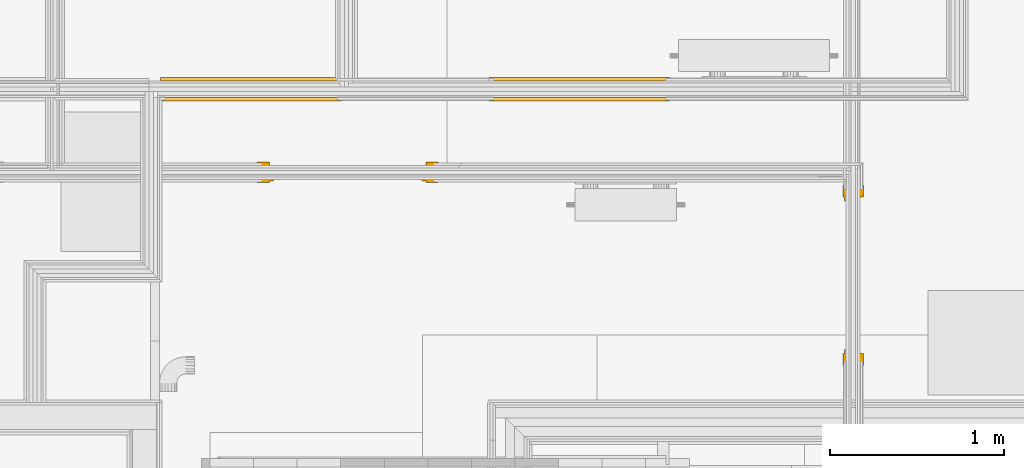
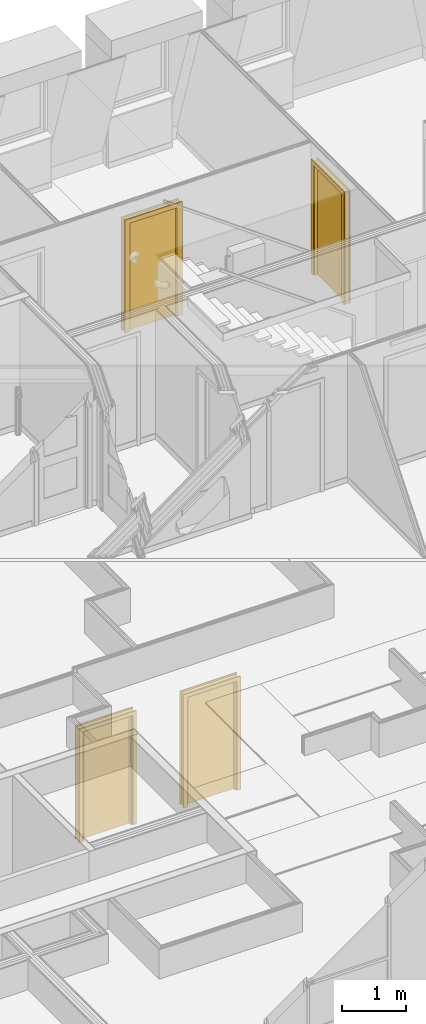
# One storey, part 132 of 169: 4 doors.
"""IFC2X3 building model written with IfcOpenShell, lengths in metres."""

from ifc_helpers import new_model, entity, si_unit, converted_unit, derived_unit, money_unit, direction, frame, origin_with_axes, place, context, subcontext, project, spatial, faceted_brep, material, type_object, element, save


model = new_model("IFC2X3")

# Units and contexts
model_context = context("Model", 3, precision=1e-05, world=origin_with_axes(), true_north=direction((0.0, 1.0)))
body_context = subcontext(model_context, "Body", "Model", "MODEL_VIEW", scale=1.0)
ifc_project = project(units=[si_unit("LENGTHUNIT", "METRE"), si_unit("AREAUNIT", "SQUARE_METRE"), si_unit("VOLUMEUNIT", "CUBIC_METRE"), si_unit("ABSORBEDDOSEUNIT", "GRAY"), si_unit("AMOUNTOFSUBSTANCEUNIT", "MOLE"), si_unit("DOSEEQUIVALENTUNIT", "SIEVERT"), si_unit("ELECTRICCAPACITANCEUNIT", "FARAD"), si_unit("ELECTRICCHARGEUNIT", "COULOMB"), si_unit("ELECTRICCONDUCTANCEUNIT", "SIEMENS"), si_unit("ELECTRICCURRENTUNIT", "AMPERE"), si_unit("ELECTRICRESISTANCEUNIT", "OHM"), si_unit("ELECTRICVOLTAGEUNIT", "VOLT"), si_unit("ENERGYUNIT", "JOULE"), si_unit("FORCEUNIT", "NEWTON"), si_unit("FREQUENCYUNIT", "HERTZ"), si_unit("ILLUMINANCEUNIT", "LUX"), si_unit("INDUCTANCEUNIT", "HENRY"), si_unit("LUMINOUSFLUXUNIT", "LUMEN"), si_unit("LUMINOUSINTENSITYUNIT", "CANDELA"), si_unit("MAGNETICFLUXDENSITYUNIT", "TESLA"), si_unit("MAGNETICFLUXUNIT", "WEBER"), si_unit("MASSUNIT", "GRAM"), converted_unit("PLANEANGLEUNIT", "degree", entity("IfcReal", 0.0174532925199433), si_unit("PLANEANGLEUNIT", "RADIAN"), dimensions=[0, 0, 0, 0, 0, 0, 0]), si_unit("POWERUNIT", "WATT"), si_unit("PRESSUREUNIT", "PASCAL"), si_unit("RADIOACTIVITYUNIT", "BECQUEREL"), si_unit("SOLIDANGLEUNIT", "STERADIAN"), si_unit("THERMODYNAMICTEMPERATUREUNIT", "KELVIN"), si_unit("TIMEUNIT", "SECOND"), derived_unit("ACCELERATIONUNIT", [(si_unit("LENGTHUNIT", "METRE"), 1), (si_unit("TIMEUNIT", "SECOND"), -2)]), derived_unit("ANGULARVELOCITYUNIT", [(converted_unit("PLANEANGLEUNIT", "degree", entity("IfcReal", 0.0174532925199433), si_unit("PLANEANGLEUNIT", "RADIAN"), dimensions=[0, 0, 0, 0, 0, 0, 0]), 1), (si_unit("TIMEUNIT", "SECOND"), -1)]), derived_unit("CURVATUREUNIT", [(converted_unit("PLANEANGLEUNIT", "degree", entity("IfcReal", 0.0174532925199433), si_unit("PLANEANGLEUNIT", "RADIAN"), dimensions=[0, 0, 0, 0, 0, 0, 0]), 1), (si_unit("LENGTHUNIT", "METRE"), -1)]), derived_unit("DYNAMICVISCOSITYUNIT", [(si_unit("PRESSUREUNIT", "PASCAL"), 1), (si_unit("TIMEUNIT", "SECOND"), 1)]), derived_unit("HEATFLUXDENSITYUNIT", [(si_unit("POWERUNIT", "WATT"), 1), (si_unit("LENGTHUNIT", "METRE"), -2)]), derived_unit("HEATINGVALUEUNIT", [(si_unit("ENERGYUNIT", "JOULE"), 1), (si_unit("MASSUNIT", "GRAM"), -1)]), derived_unit("INTEGERCOUNTRATEUNIT", [(si_unit("TIMEUNIT", "SECOND"), -1)]), derived_unit("IONCONCENTRATIONUNIT", [(si_unit("MASSUNIT", "GRAM"), 1), (si_unit("VOLUMEUNIT", "CUBIC_METRE"), -1)]), derived_unit("ISOTHERMALMOISTURECAPACITYUNIT", [(si_unit("VOLUMEUNIT", "CUBIC_METRE"), 1), (si_unit("MASSUNIT", "GRAM"), -1)]), derived_unit("KINEMATICVISCOSITYUNIT", [(si_unit("AREAUNIT", "SQUARE_METRE"), 1), (si_unit("TIMEUNIT", "SECOND"), -1)]), derived_unit("LINEARFORCEUNIT", [(si_unit("FORCEUNIT", "NEWTON"), 1), (si_unit("LENGTHUNIT", "METRE"), -1)]), derived_unit("LINEARMOMENTUNIT", [(si_unit("FORCEUNIT", "NEWTON"), 1), (si_unit("LENGTHUNIT", "METRE"), -1)]), derived_unit("LINEARSTIFFNESSUNIT", [(si_unit("FORCEUNIT", "NEWTON"), 1), (si_unit("LENGTHUNIT", "METRE"), -1)]), derived_unit("LINEARVELOCITYUNIT", [(si_unit("LENGTHUNIT", "METRE"), 1), (si_unit("TIMEUNIT", "SECOND"), -1)]), derived_unit("LUMINOUSINTENSITYDISTRIBUTIONUNIT", [(si_unit("LUMINOUSINTENSITYUNIT", "CANDELA"), 1), (si_unit("LUMINOUSFLUXUNIT", "LUMEN"), -1)]), derived_unit("MASSDENSITYUNIT", [(si_unit("MASSUNIT", "GRAM"), 1), (si_unit("VOLUMEUNIT", "CUBIC_METRE"), -1)]), derived_unit("MASSFLOWRATEUNIT", [(si_unit("MASSUNIT", "GRAM"), 1), (si_unit("TIMEUNIT", "SECOND"), -1)]), derived_unit("MASSPERLENGTHUNIT", [(si_unit("MASSUNIT", "GRAM"), 1), (si_unit("LENGTHUNIT", "METRE"), -1)]), derived_unit("MODULUSOFELASTICITYUNIT", [(si_unit("FORCEUNIT", "NEWTON"), 1), (si_unit("AREAUNIT", "SQUARE_METRE"), -1)]), derived_unit("MODULUSOFLINEARSUBGRADEREACTIONUNIT", [(si_unit("FORCEUNIT", "NEWTON"), 1), (si_unit("LENGTHUNIT", "METRE"), -2)]), derived_unit("MODULUSOFROTATIONALSUBGRADEREACTIONUNIT", [(si_unit("FORCEUNIT", "NEWTON"), 1), (si_unit("LENGTHUNIT", "METRE"), 1)]), derived_unit("MODULUSOFSUBGRADEREACTIONUNIT", [(si_unit("FORCEUNIT", "NEWTON"), 1), (si_unit("VOLUMEUNIT", "CUBIC_METRE"), -1)]), derived_unit("MOISTUREDIFFUSIVITYUNIT", [(si_unit("VOLUMEUNIT", "CUBIC_METRE"), 1), (si_unit("TIMEUNIT", "SECOND"), -1)]), derived_unit("MOLECULARWEIGHTUNIT", [(si_unit("MASSUNIT", "GRAM"), 1), (si_unit("AMOUNTOFSUBSTANCEUNIT", "MOLE"), -1)]), derived_unit("PLANARFORCEUNIT", [(si_unit("FORCEUNIT", "NEWTON"), 1), (si_unit("LENGTHUNIT", "METRE"), -2)]), derived_unit("ROTATIONALFREQUENCYUNIT", [(si_unit("TIMEUNIT", "SECOND"), -1)]), derived_unit("ROTATIONALMASSUNIT", [(si_unit("MASSUNIT", "GRAM"), 1), (si_unit("LENGTHUNIT", "METRE"), 2)]), derived_unit("ROTATIONALSTIFFNESSUNIT", [(si_unit("FORCEUNIT", "NEWTON"), 1), (si_unit("LENGTHUNIT", "METRE"), 1), (converted_unit("PLANEANGLEUNIT", "degree", entity("IfcReal", 0.0174532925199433), si_unit("PLANEANGLEUNIT", "RADIAN"), dimensions=[0, 0, 0, 0, 0, 0, 0]), -1)]), derived_unit("SECTIONAREAINTEGRALUNIT", [(si_unit("LENGTHUNIT", "METRE"), 5)]), derived_unit("SECTIONMODULUSUNIT", [(si_unit("LENGTHUNIT", "METRE"), 3)]), derived_unit("SHEARMODULUSUNIT", [(si_unit("FORCEUNIT", "NEWTON"), 1), (si_unit("AREAUNIT", "SQUARE_METRE"), -1)]), derived_unit("SOUNDPOWERUNIT", [(si_unit("ENERGYUNIT", "JOULE"), 1), (si_unit("TIMEUNIT", "SECOND"), -1)]), derived_unit("SPECIFICHEATCAPACITYUNIT", [(si_unit("FORCEUNIT", "NEWTON"), 1), (si_unit("MASSUNIT", "GRAM"), -1), (si_unit("THERMODYNAMICTEMPERATUREUNIT", "KELVIN"), -1)]), derived_unit("TEMPERATUREGRADIENTUNIT", [(si_unit("THERMODYNAMICTEMPERATUREUNIT", "KELVIN"), 1), (si_unit("LENGTHUNIT", "METRE"), -1)]), derived_unit("THERMALADMITTANCEUNIT", [(si_unit("POWERUNIT", "WATT"), 1), (si_unit("AREAUNIT", "SQUARE_METRE"), -1), (si_unit("THERMODYNAMICTEMPERATUREUNIT", "KELVIN"), -1)]), derived_unit("THERMALCONDUCTANCEUNIT", [(si_unit("POWERUNIT", "WATT"), 1), (si_unit("LENGTHUNIT", "METRE"), -1), (si_unit("THERMODYNAMICTEMPERATUREUNIT", "KELVIN"), -1)]), derived_unit("THERMALEXPANSIONCOEFFICIENTUNIT", [(si_unit("THERMODYNAMICTEMPERATUREUNIT", "KELVIN"), -1)]), derived_unit("THERMALRESISTANCEUNIT", [(si_unit("AREAUNIT", "SQUARE_METRE"), 1), (si_unit("POWERUNIT", "WATT"), -1)]), derived_unit("THERMALTRANSMITTANCEUNIT", [(si_unit("POWERUNIT", "WATT"), 1), (si_unit("AREAUNIT", "SQUARE_METRE"), -1), (si_unit("THERMODYNAMICTEMPERATUREUNIT", "KELVIN"), -1)]), derived_unit("TORQUEUNIT", [(si_unit("FORCEUNIT", "NEWTON"), 1), (si_unit("LENGTHUNIT", "METRE"), 1)]), derived_unit("VAPORPERMEABILITYUNIT", [(si_unit("MASSUNIT", "GRAM"), 1), (si_unit("TIMEUNIT", "SECOND"), -1)]), derived_unit("VOLUMETRICFLOWRATEUNIT", [(si_unit("VOLUMEUNIT", "CUBIC_METRE"), 1), (si_unit("TIMEUNIT", "SECOND"), -1)]), derived_unit("WARPINGCONSTANTUNIT", [(si_unit("LENGTHUNIT", "METRE"), 6)]), derived_unit("WARPINGMOMENTUNIT", [(si_unit("FORCEUNIT", "NEWTON"), 1), (si_unit("LENGTHUNIT", "METRE"), 2)]), money_unit("GBP")], contexts=[model_context])

# Site, building, storey, space
site_placement = place(None, origin_with_axes())
site = spatial("IfcSite", under=ifc_project, at=site_placement, Name="Site", CompositionType="ELEMENT")
building_placement = place(site_placement, origin_with_axes())
building = spatial("IfcBuilding", under=site, at=building_placement, Name="Building01", CompositionType="ELEMENT")
storey_placement = place(building_placement, frame((0.0, 0.0, 5.15), z_axis=(0.0, 0.0, 1.0), x_axis=(1.0, 0.0, 0.0)))
storey = spatial("IfcBuildingStorey", under=building, at=storey_placement, Name="1F", CompositionType="ELEMENT", Elevation=5.15)
space_1_placement = place(storey_placement, frame((16.03844, 8.82, 9.86), z_axis=(0.0, 0.0, 1.0), x_axis=(0.0, -1.0, 0.0)))
space_1 = spatial("IfcSpace", under=storey, at=space_1_placement, Name="23", CompositionType="ELEMENT", InteriorOrExteriorSpace="NOTDEFINED")

# Doors
ifc_material = material(Name="A_BSUK_Doors")
door_style_1 = type_object("IfcDoorStyle", Name="A-Doors-SingleFlush", ConstructionType="USERDEFINED", OperationType="SINGLE_SWING_RIGHT", ParameterTakesPrecedence=False, Sizeable=False)
door_1_placement = place(storey_placement, frame((18.629976, 10.179939, 9.83), z_axis=(0.0, 0.0, 1.0), x_axis=(1.0, 0.0, 0.0)))
element("IfcDoor", 1, at=door_1_placement, inside=space_1, type_object=door_style_1, material=ifc_material, Name="4.08", ObjectType="A-Doors-SingleFlush", OverallHeight=2.16900000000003, OverallWidth=1.03800000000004, context=body_context, shape_type="Brep", body=[
    faceted_brep([(0.9, -0.099, 0.0), (0.969, -0.099, 0.0), (0.969, -0.099, 2.169), (-0.069, -0.099, 2.169), (-0.069, -0.099, 0.0), (0.0, -0.099, 0.0), (0.0, -0.099, 2.1), (0.9, -0.099, 2.1), (-0.069, -0.08, 0.0), (-0.069, -0.08, 2.169), (0.969, -0.08, 2.169), (0.969, -0.08, 0.0), (0.9, 0.019, 0.0), (0.969, 0.019, 0.0), (0.969, 0.0, 0.0), (0.942, 0.0, 0.0), (0.942, -0.08, 0.0), (0.9, 0.019, 2.1), (0.0, 0.019, 2.1), (0.0, 0.019, 0.0), (-0.069, 0.019, 0.0), (-0.069, 0.019, 2.169), (0.969, 0.019, 2.169), (0.969, 0.0, 2.169), (0.942, -0.08, 2.142), (0.942, 0.0, 2.142), (-0.042, -0.08, 2.142), (-0.042, 0.0, 2.142), (-0.042, -0.08, 0.0), (-0.042, 0.0, 0.0), (-0.069, 0.0, 2.169), (-0.069, 0.0, 0.0)], [[[0, 1, 2, 3, 4, 5, 6, 7]], [[8, 4, 3, 9]], [[10, 2, 1, 11]], [[9, 3, 2, 10]], [[12, 13, 14, 15, 16, 11, 1, 0]], [[7, 17, 12, 0]], [[6, 18, 17, 7]], [[18, 19, 20, 21, 22, 13, 12, 17]], [[5, 19, 18, 6]], [[13, 22, 23, 14]], [[24, 16, 15, 25]], [[26, 24, 25, 27]], [[11, 16, 24, 26, 28, 8, 9, 10]], [[27, 29, 28, 26]], [[25, 15, 14, 23, 30, 31, 29, 27]], [[5, 4, 8, 28, 29, 31, 20, 19]], [[30, 21, 20, 31]], [[23, 22, 21, 30]]]),
    faceted_brep([(0.0, -0.09, 2.1), (0.0, -0.04, 2.1), (0.0, -0.04, 0.0), (0.0, -0.09, 0.0), (0.875, -0.09, 0.0), (0.9, -0.09, 0.0), (0.9, -0.09, 2.1), (0.025, -0.09, 0.0), (0.025, -0.09, 2.075), (0.875, -0.09, 2.075), (0.875, -0.04, 0.0), (0.9, -0.04, 0.0), (0.9, -0.04, 2.1), (0.025, -0.04, 2.075), (0.025, -0.04, 0.0), (0.875, -0.04, 2.075)], [[[0, 1, 2, 3]], [[4, 5, 6, 0, 3, 7, 8, 9]], [[10, 11, 5, 4]], [[6, 12, 1, 0]], [[5, 11, 12, 6]], [[13, 14, 2, 1, 12, 11, 10, 15]], [[7, 14, 13, 8]], [[7, 3, 2, 14]], [[9, 15, 10, 4]], [[8, 13, 15, 9]]]),
    faceted_brep([(0.9, -0.04, 0.0), (0.9, 0.0, 0.0), (0.9, 0.0, 2.1), (0.9, -0.04, 2.1), (0.0, -0.04, 2.1), (0.0, 0.0, 2.1), (0.0, 0.0, 0.0), (0.0, -0.04, 0.0)], [[[0, 1, 2, 3]], [[4, 5, 6, 7]], [[7, 6, 1, 0]], [[3, 4, 7, 0]], [[3, 2, 5, 4]], [[1, 6, 5, 2]]]),
])
door_2_placement = place(storey_placement, frame((22.019976, 9.999939, 9.83), z_axis=(0.0, 0.0, 1.0), x_axis=(0.0, -1.0, 0.0)))
element("IfcDoor", 2, at=door_2_placement, inside=space_1, type_object=door_style_1, material=ifc_material, Name="4.10", ObjectType="A-Doors-SingleFlush", OverallHeight=2.16900000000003, OverallWidth=1.03800000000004, context=body_context, shape_type="Brep", body=[
    faceted_brep([(0.9, -0.099, 0.0), (0.969, -0.099, 0.0), (0.969, -0.099, 2.169), (-0.069, -0.099, 2.169), (-0.069, -0.099, 0.0), (0.0, -0.099, 0.0), (0.0, -0.099, 2.1), (0.9, -0.099, 2.1), (-0.069, -0.08, 0.0), (-0.069, -0.08, 2.169), (0.969, -0.08, 2.169), (0.969, -0.08, 0.0), (0.9, 0.019, 0.0), (0.969, 0.019, 0.0), (0.969, 0.0, 0.0), (0.942, 0.0, 0.0), (0.942, -0.08, 0.0), (0.9, 0.019, 2.1), (0.0, 0.019, 2.1), (0.0, 0.019, 0.0), (-0.069, 0.019, 0.0), (-0.069, 0.019, 2.169), (0.969, 0.019, 2.169), (0.969, 0.0, 2.169), (0.942, -0.08, 2.142), (0.942, 0.0, 2.142), (-0.042, -0.08, 2.142), (-0.042, 0.0, 2.142), (-0.042, -0.08, 0.0), (-0.042, 0.0, 0.0), (-0.069, 0.0, 2.169), (-0.069, 0.0, 0.0)], [[[0, 1, 2, 3, 4, 5, 6, 7]], [[8, 4, 3, 9]], [[10, 2, 1, 11]], [[9, 3, 2, 10]], [[12, 13, 14, 15, 16, 11, 1, 0]], [[7, 17, 12, 0]], [[6, 18, 17, 7]], [[18, 19, 20, 21, 22, 13, 12, 17]], [[5, 19, 18, 6]], [[13, 22, 23, 14]], [[24, 16, 15, 25]], [[26, 24, 25, 27]], [[11, 16, 24, 26, 28, 8, 9, 10]], [[27, 29, 28, 26]], [[25, 15, 14, 23, 30, 31, 29, 27]], [[5, 4, 8, 28, 29, 31, 20, 19]], [[30, 21, 20, 31]], [[23, 22, 21, 30]]]),
    faceted_brep([(0.0, -0.09, 2.1), (0.0, -0.04, 2.1), (0.0, -0.04, 0.0), (0.0, -0.09, 0.0), (0.875, -0.09, 0.0), (0.9, -0.09, 0.0), (0.9, -0.09, 2.1), (0.025, -0.09, 0.0), (0.025, -0.09, 2.075), (0.875, -0.09, 2.075), (0.875, -0.04, 0.0), (0.9, -0.04, 0.0), (0.9, -0.04, 2.1), (0.025, -0.04, 2.075), (0.025, -0.04, 0.0), (0.875, -0.04, 2.075)], [[[0, 1, 2, 3]], [[4, 5, 6, 0, 3, 7, 8, 9]], [[10, 11, 5, 4]], [[6, 12, 1, 0]], [[5, 11, 12, 6]], [[13, 14, 2, 1, 12, 11, 10, 15]], [[7, 14, 13, 8]], [[7, 3, 2, 14]], [[9, 15, 10, 4]], [[8, 13, 15, 9]]]),
    faceted_brep([(0.9, -0.04, 0.0), (0.9, 0.0, 0.0), (0.9, 0.0, 2.1), (0.9, -0.04, 2.1), (0.0, -0.04, 2.1), (0.0, 0.0, 2.1), (0.0, 0.0, 0.0), (0.0, -0.04, 0.0)], [[[0, 1, 2, 3]], [[4, 5, 6, 7]], [[7, 6, 1, 0]], [[3, 4, 7, 0]], [[3, 2, 5, 4]], [[1, 6, 5, 2]]]),
])

# Space
space_2_placement = place(storey_placement, frame((15.83, 8.82, 0.017975), z_axis=(0.0, 0.0, 1.0), x_axis=(0.0, -1.0, 0.0)))
space_2 = spatial("IfcSpace", under=storey, at=space_2_placement, Name="02", CompositionType="ELEMENT", InteriorOrExteriorSpace="NOTDEFINED")

# Doors
door_style_2 = type_object("IfcDoorStyle", Name="A-Doors-SingleFlush", ConstructionType="USERDEFINED", OperationType="SINGLE_SWING_LEFT", ParameterTakesPrecedence=False, Sizeable=False)
door_3_placement = place(storey_placement, frame((19.960284, 10.665, 0.0), z_axis=(0.0, 0.0, 1.0), x_axis=(1.0, 0.0, 0.0)))
element("IfcDoor", 3, at=door_3_placement, inside=space_2, type_object=door_style_2, material=ifc_material, Name="1.07", ObjectType="A-Doors-SingleFlush", OverallHeight=2.16900000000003, OverallWidth=1.03800000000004, context=body_context, shape_type="Brep", body=[
    faceted_brep([(0.0, -0.114, 2.1), (0.9, -0.114, 2.1), (0.9, -0.114, 0.0), (0.969, -0.114, 0.0), (0.969, -0.114, 2.169), (-0.069, -0.114, 2.169), (-0.069, -0.114, 0.0), (0.0, -0.114, 0.0), (0.969, -0.095, 2.169), (0.969, -0.095, 0.0), (-0.069, -0.095, 0.0), (-0.069, -0.095, 2.169), (-0.042, -0.095, 0.0), (-0.042, 0.0, 0.0), (-0.069, 0.0, 0.0), (-0.069, 0.019, 0.0), (0.0, 0.019, 0.0), (0.0, 0.019, 2.1), (0.9, 0.019, 2.1), (-0.069, 0.019, 2.169), (0.969, 0.019, 2.169), (0.969, 0.019, 0.0), (0.9, 0.019, 0.0), (-0.069, 0.0, 2.169), (-0.042, 0.0, 2.142), (-0.042, -0.095, 2.142), (0.942, 0.0, 2.142), (0.942, -0.095, 2.142), (0.942, -0.095, 0.0), (0.942, 0.0, 0.0), (0.969, 0.0, 0.0), (0.969, 0.0, 2.169)], [[[0, 1, 2, 3, 4, 5, 6, 7]], [[8, 4, 3, 9]], [[10, 6, 5, 11]], [[11, 5, 4, 8]], [[7, 6, 10, 12, 13, 14, 15, 16]], [[7, 16, 17, 0]], [[0, 17, 18, 1]], [[17, 16, 15, 19, 20, 21, 22, 18]], [[1, 18, 22, 2]], [[14, 23, 19, 15]], [[24, 13, 12, 25]], [[26, 24, 25, 27]], [[11, 8, 9, 28, 27, 25, 12, 10]], [[27, 28, 29, 26]], [[26, 29, 30, 31, 23, 14, 13, 24]], [[22, 21, 30, 29, 28, 9, 3, 2]], [[30, 21, 20, 31]], [[31, 20, 19, 23]]]),
    faceted_brep([(0.9, -0.09, 0.0), (0.9, -0.04, 0.0), (0.9, -0.04, 2.1), (0.9, -0.09, 2.1), (0.025, -0.09, 2.075), (0.875, -0.09, 2.075), (0.875, -0.09, 0.0), (0.0, -0.09, 2.1), (0.0, -0.09, 0.0), (0.025, -0.09, 0.0), (0.0, -0.04, 0.0), (0.025, -0.04, 0.0), (0.0, -0.04, 2.1), (0.025, -0.04, 2.075), (0.875, -0.04, 0.0), (0.875, -0.04, 2.075)], [[[0, 1, 2, 3]], [[4, 5, 6, 0, 3, 7, 8, 9]], [[9, 8, 10, 11]], [[3, 2, 12, 7]], [[7, 12, 10, 8]], [[13, 11, 10, 12, 2, 1, 14, 15]], [[5, 15, 14, 6]], [[14, 1, 0, 6]], [[9, 11, 13, 4]], [[4, 13, 15, 5]]]),
    faceted_brep([(0.0, -0.04, 2.1), (0.0, 0.0, 2.1), (0.0, 0.0, 0.0), (0.0, -0.04, 0.0), (0.9, -0.04, 0.0), (0.9, 0.0, 0.0), (0.9, 0.0, 2.1), (0.9, -0.04, 2.1)], [[[0, 1, 2, 3]], [[4, 5, 6, 7]], [[3, 2, 5, 4]], [[3, 4, 7, 0]], [[7, 6, 1, 0]], [[1, 6, 5, 2]]]),
])
door_style_3 = type_object("IfcDoorStyle", Name="A-Doors-SingleFlush", ConstructionType="USERDEFINED", OperationType="SINGLE_SWING_RIGHT", ParameterTakesPrecedence=False, Sizeable=False)
door_4_placement = place(storey_placement, frame((18.075398, 10.665, 0.0), z_axis=(0.0, 0.0, 1.0), x_axis=(1.0, 0.0, 0.0)))
element("IfcDoor", 4, at=door_4_placement, inside=space_2, type_object=door_style_3, material=ifc_material, Name="1.06", ObjectType="A-Doors-SingleFlush", OverallHeight=2.16900000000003, OverallWidth=1.03800000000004, context=body_context, shape_type="Brep", body=[
    faceted_brep([(0.9, -0.114, 0.0), (0.969, -0.114, 0.0), (0.969, -0.114, 2.169), (-0.069, -0.114, 2.169), (-0.069, -0.114, 0.0), (0.0, -0.114, 0.0), (0.0, -0.114, 2.1), (0.9, -0.114, 2.1), (-0.069, -0.095, 0.0), (-0.069, -0.095, 2.169), (0.969, -0.095, 2.169), (0.969, -0.095, 0.0), (0.9, 0.019, 0.0), (0.969, 0.019, 0.0), (0.969, 0.0, 0.0), (0.942, 0.0, 0.0), (0.942, -0.095, 0.0), (0.9, 0.019, 2.1), (0.0, 0.019, 2.1), (0.0, 0.019, 0.0), (-0.069, 0.019, 0.0), (-0.069, 0.019, 2.169), (0.969, 0.019, 2.169), (0.969, 0.0, 2.169), (0.942, -0.095, 2.142), (0.942, 0.0, 2.142), (-0.042, -0.095, 2.142), (-0.042, 0.0, 2.142), (-0.042, -0.095, 0.0), (-0.042, 0.0, 0.0), (-0.069, 0.0, 2.169), (-0.069, 0.0, 0.0)], [[[0, 1, 2, 3, 4, 5, 6, 7]], [[8, 4, 3, 9]], [[10, 2, 1, 11]], [[9, 3, 2, 10]], [[12, 13, 14, 15, 16, 11, 1, 0]], [[7, 17, 12, 0]], [[6, 18, 17, 7]], [[18, 19, 20, 21, 22, 13, 12, 17]], [[5, 19, 18, 6]], [[13, 22, 23, 14]], [[24, 16, 15, 25]], [[26, 24, 25, 27]], [[11, 16, 24, 26, 28, 8, 9, 10]], [[27, 29, 28, 26]], [[25, 15, 14, 23, 30, 31, 29, 27]], [[5, 4, 8, 28, 29, 31, 20, 19]], [[30, 21, 20, 31]], [[23, 22, 21, 30]]]),
    faceted_brep([(0.0, -0.09, 2.1), (0.0, -0.04, 2.1), (0.0, -0.04, 0.0), (0.0, -0.09, 0.0), (0.875, -0.09, 0.0), (0.9, -0.09, 0.0), (0.9, -0.09, 2.1), (0.025, -0.09, 0.0), (0.025, -0.09, 2.075), (0.875, -0.09, 2.075), (0.875, -0.04, 0.0), (0.9, -0.04, 0.0), (0.9, -0.04, 2.1), (0.025, -0.04, 2.075), (0.025, -0.04, 0.0), (0.875, -0.04, 2.075)], [[[0, 1, 2, 3]], [[4, 5, 6, 0, 3, 7, 8, 9]], [[10, 11, 5, 4]], [[6, 12, 1, 0]], [[5, 11, 12, 6]], [[13, 14, 2, 1, 12, 11, 10, 15]], [[7, 14, 13, 8]], [[7, 3, 2, 14]], [[9, 15, 10, 4]], [[8, 13, 15, 9]]]),
    faceted_brep([(0.9, -0.04, 0.0), (0.9, 0.0, 0.0), (0.9, 0.0, 2.1), (0.9, -0.04, 2.1), (0.0, -0.04, 2.1), (0.0, 0.0, 2.1), (0.0, 0.0, 0.0), (0.0, -0.04, 0.0)], [[[0, 1, 2, 3]], [[4, 5, 6, 7]], [[7, 6, 1, 0]], [[3, 4, 7, 0]], [[3, 2, 5, 4]], [[1, 6, 5, 2]]]),
])

save(model, "model.ifc")
